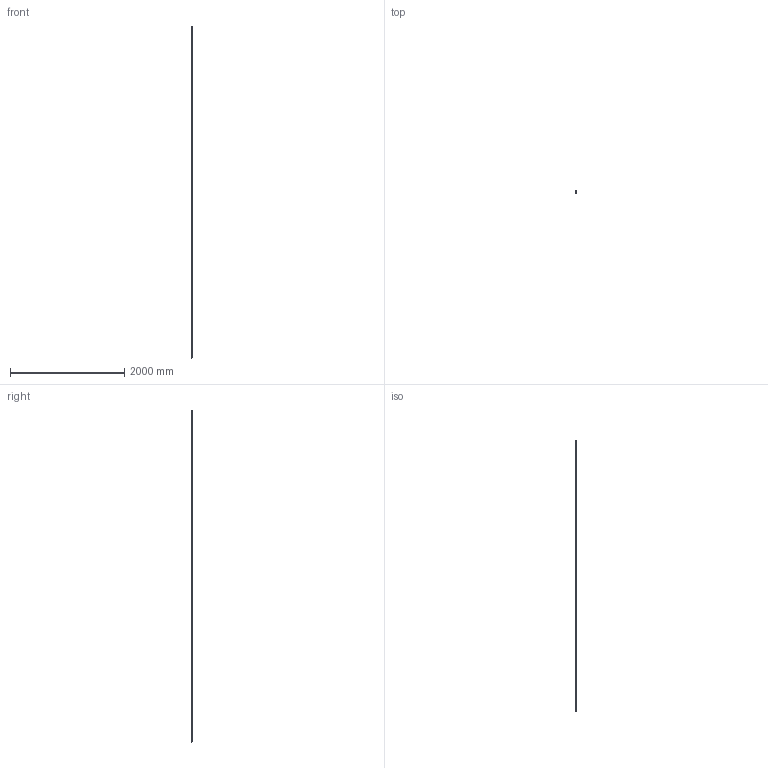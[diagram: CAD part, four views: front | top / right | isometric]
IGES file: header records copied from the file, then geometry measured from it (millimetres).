
Start section: 3D InterOp IGES (v. 2019 1.0.2), Spatial Corp. Copyright (c) 1999-2017.
Global section: file name: R1605.3_size20.igs; native system: Spatial Corp.; preprocessor: 3D InterOp GENERIC/IGES 3.0; author: Noname; organization: Noname; date: 20220629.163428; units: millimetre
Bounding box: 26.4 x 27.77 x 5820.24 mm (x, y, z)
Surface area: 769679.7 mm2 (no closed solid volume)
Topology: 0 solids, 0 shells, 805 faces, 4036 edges, 4032 vertices
Faces by surface type: revolution 520, extrusion 285
